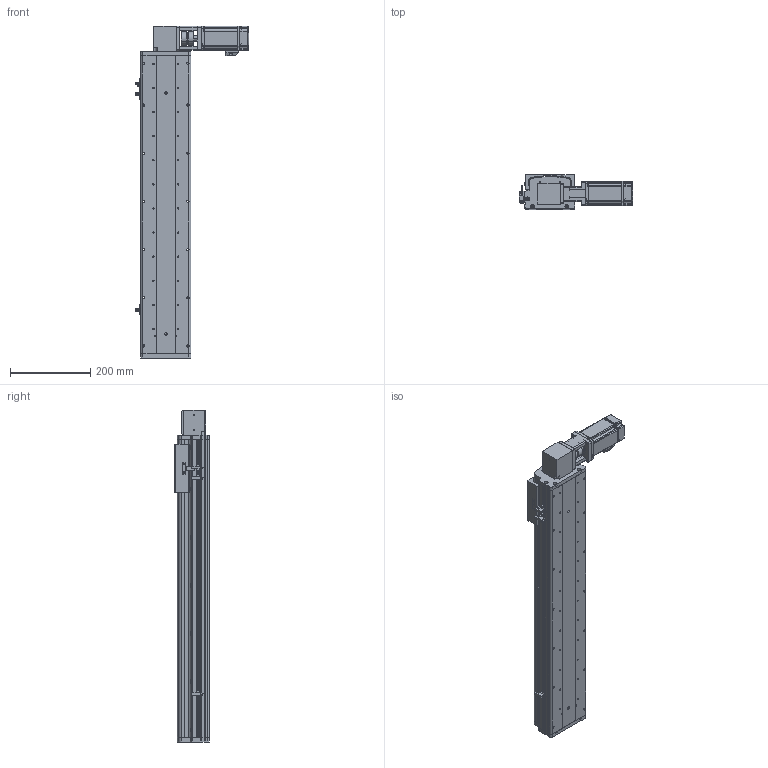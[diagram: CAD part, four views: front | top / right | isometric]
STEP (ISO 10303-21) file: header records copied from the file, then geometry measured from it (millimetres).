
FILE_DESCRIPTION (( 'STEP AP214' ), '1' );
FILE_NAME ('KSD125B-S550-MRT-CM.STEP', '2017-10-21T06:53:36', ( '微软用户' ), ( '微软中国' ), 'SwSTEP 2.0', 'SolidWorks 2014', '' );
FILE_SCHEMA (( 'AUTOMOTIVE_DESIGN' ));
Length unit declared in the file: millimetre
Products named in the file (16): U倰嫖萇EEㄜSX672; KSD125模组同步带-防撞垫1; 100宽安装板同步带带电机座400W,86; 前端板-125宽模组同步带; 125模组同步带-尾端板1; KSD125模组同步带-滑动座1; KSD125B-S550-MRT-CM; 100宽马达安装板同步带左; MHMD042G1CA_2_03; KSD125模组550行程同步带-防尘盖; 125模组550行程同步带-底板; KSD125模组同步带-防撞垫2; CS-34X32-10X14; 100遵鎮湛假蚾啣1 ; 覜茼え68遵圉猾敕; U倰嫖萇假蚾璃
Assembly tree (19 placements, depth 2):
  KSD125B-S550-MRT-CM
    KSD125模组同步带-滑动座1
    125模组同步带-尾端板1
    前端板-125宽模组同步带
    100宽安装板同步带带电机座400W,86
    KSD125模组同步带-防撞垫1
    U倰嫖萇EEㄜSX672  x3
    U倰嫖萇假蚾璃  x3
    覜茼え68遵圉猾敕
    100遵鎮湛假蚾啣1 
    CS-34X32-10X14
    KSD125模组同步带-防撞垫2
    125模组550行程同步带-底板
    KSD125模组550行程同步带-防尘盖
    MHMD042G1CA_2_03
    100宽马达安装板同步带左
Bounding box: 282.7 x 86 x 827 mm (x, y, z)
Volume: 2707169.5 mm3; surface area: 909926.2 mm2
Topology: 18 solids, 21 shells, 1656 faces, 4744 edges, 3128 vertices
Faces by surface type: cylinder 853, plane 700, cone 81, bspline 22
Entity records: 57984 total; most frequent: CARTESIAN_POINT 11762, DIRECTION 8479, ORIENTED_EDGE 8008, EDGE_CURVE 4082, AXIS2_PLACEMENT_3D 3141, VERTEX_POINT 2720, LINE 2197, VECTOR 2197
